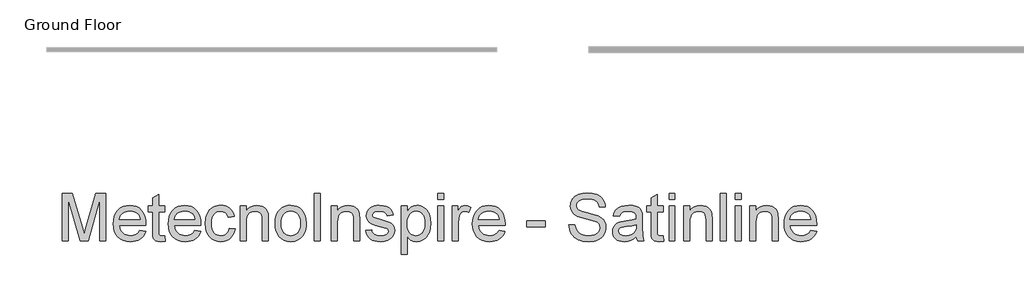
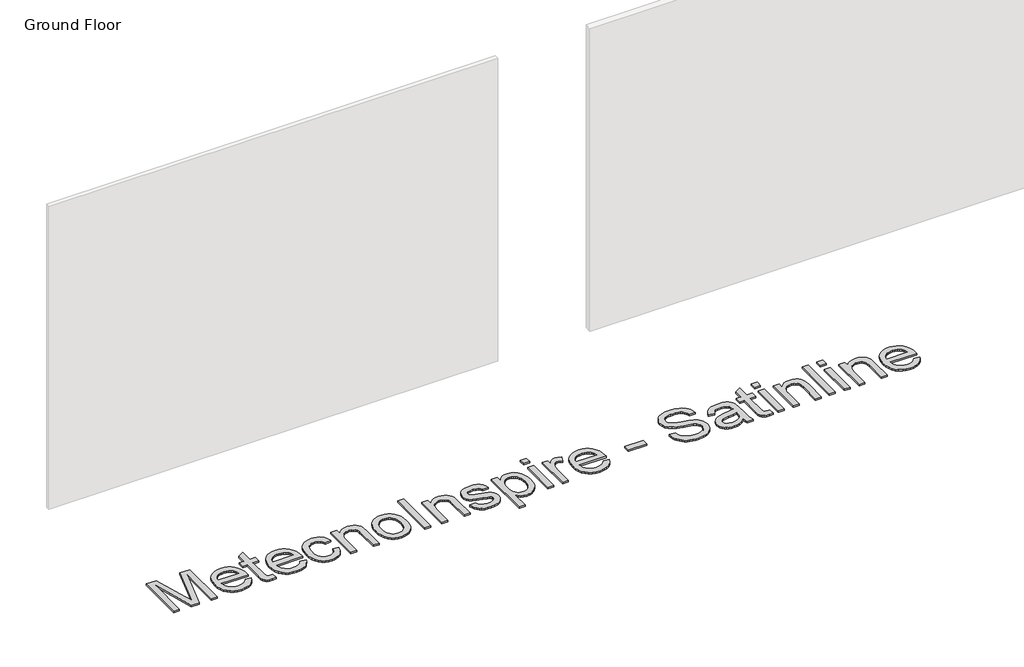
# One storey, part 5 of 5: 1 proxy.
"""IFC4 building model written with IfcOpenShell, lengths in millimetres."""

from ifc_helpers import new_model, si_unit, origin, origin_with_axes, place, context, project, spatial, polyline, outline, extrude, element, save

model = new_model("IFC4")

# Units and contexts
model_context = context("Model", 3, world=origin())
ifc_project = project(units=[si_unit("LENGTHUNIT", "METRE", prefix="MILLI")], contexts=[model_context])

# Site, building, storey
site = spatial("IfcSite", under=ifc_project)
building = spatial("IfcBuilding", under=site)
storey = spatial("IfcBuildingStorey", under=building, Name="Ground Floor", Elevation=0.0)

# Proxy
placement = place(None, origin())
element("IfcBuildingElementProxy", 1, Name="600mm Arial", ObjectType="600mm Arial", at=placement, inside=storey, context=model_context, shape_type="SweptSolid", body=[
    extrude(outline(polyline([(70028.938782, -1483.8412169), (70028.938782, -893.0719861), (70156.0060897, -893.0719861), (70276.8714743, -1309.4662169), (70301.2464743, -1396.4373708), (70327.640705, -1302.2546784), (70446.4868589, -893.0719861), (70573.5541666, -893.0719861), (70573.5541666, -1483.8412169), (70499.7080127, -1483.8412169), (70499.7080127, -966.91814), (70351.2945512, -1483.8412169), (70251.1983974, -1483.8412169), (70102.7849358, -966.91814), (70102.7849358, -1483.8412169), (70028.938782, -1483.8412169)])), origin_with_axes(), (0.0, 0.0, 1.0), 20.0),
    extrude(outline(polyline([(70997.3041666, -1354.6104477), (71069.7080127, -1363.8412169), (71058.6067507, -1392.8406159), (71043.6202724, -1418.3965054), (71024.7485776, -1440.5088852), (71001.9916666, -1459.1777554), (70975.5839142, -1474.0064813), (70945.7596954, -1484.5984284), (70912.5190103, -1490.9535967), (70875.8618589, -1493.0719861), (70830.0415464, -1489.4166376), (70789.2152243, -1478.4505919), (70753.3828925, -1460.1738491), (70722.5445512, -1434.5864092), (70697.7458733, -1402.4004116), (70680.032532, -1364.3279958), (70669.4045272, -1320.3691616), (70665.8618589, -1270.5239092), (70669.4405849, -1218.9884525), (70680.1767627, -1173.5647746), (70698.0703925, -1134.2528756), (70723.1214743, -1101.0527554), (70753.8786858, -1074.6765534), (70788.890705, -1055.8364092), (70828.157532, -1044.5323227), (70871.6791666, -1040.7642938), (70913.7990584, -1044.5233083), (70951.8895031, -1055.8003515), (70985.9505007, -1074.5954236), (71015.9820512, -1100.9085246), (71040.4967748, -1134.0365294), (71058.0072916, -1173.2763131), (71068.5136017, -1218.6278756), (71072.015705, -1270.0912169), (71071.5830127, -1289.9950631), (70739.7080127, -1289.9950631), (70743.9853565, -1319.4632121), (70752.4904647, -1345.2715054), (70765.2233373, -1367.4199429), (70782.1839743, -1385.9085246), (70802.4348757, -1400.4848467), (70825.0385416, -1410.8965054), (70849.9949719, -1417.1435006), (70877.3041666, -1419.2258323), (70916.6070512, -1415.3676592), (70949.7080127, -1403.79314), (70976.6070512, -1383.7811208), (70997.3041666, -1354.6104477)]), holes=[polyline([(70739.7080127, -1216.1489092), (70998.1695512, -1216.1489092), (70988.1815704, -1177.1344861), (70979.5908252, -1161.7919381), (70968.6022435, -1149.2258323), (70948.4640224, -1134.0816015), (70925.5493589, -1123.2642938), (70899.8582531, -1116.7739092), (70871.390705, -1114.6104477), (70845.4246594, -1116.3367097), (70821.6130608, -1121.5154958), (70799.9559094, -1130.1468058), (70780.453205, -1142.23064), (70764.08752, -1157.2081039), (70751.8414262, -1174.5203034), (70743.7149238, -1194.1672385), (70739.7080127, -1216.1489092)])]), origin_with_axes(), (0.0, 0.0, 1.0), 20.0),
    extrude(outline(polyline([(71302.7849358, -1422.2546784), (71312.015705, -1486.0046784), (71256.7753204, -1493.0719861), (71221.3306089, -1490.0070823), (71194.9003204, -1480.8123708), (71176.2224358, -1466.6416977), (71164.0349358, -1448.6489092), (71157.328205, -1417.7474669), (71155.0926281, -1364.8508323), (71155.0926281, -1123.8412169), (71099.7080127, -1123.8412169), (71099.7080127, -1049.9950631), (71155.0926281, -1049.9950631), (71155.0926281, -944.5623708), (71228.938782, -901.1489092), (71228.938782, -1049.9950631), (71302.7849358, -1049.9950631), (71302.7849358, -1123.8412169), (71228.938782, -1123.8412169), (71228.938782, -1362.6873708), (71232.8330127, -1400.7642938), (71245.453205, -1414.2498708), (71256.1082531, -1417.9818419), (71270.6214743, -1419.2258323), (71302.7849358, -1422.2546784)])), origin_with_axes(), (0.0, 0.0, 1.0), 20.0),
    extrude(outline(polyline([(71680.3810897, -1354.6104477), (71752.7849358, -1363.8412169), (71741.6836738, -1392.8406159), (71726.6971954, -1418.3965054), (71707.8255007, -1440.5088852), (71685.0685897, -1459.1777554), (71658.6608373, -1474.0064813), (71628.8366185, -1484.5984284), (71595.5959334, -1490.9535967), (71558.938782, -1493.0719861), (71513.1184695, -1489.4166376), (71472.2921474, -1478.4505919), (71436.4598156, -1460.1738491), (71405.6214743, -1434.5864092), (71380.8227964, -1402.4004116), (71363.109455, -1364.3279958), (71352.4814502, -1320.3691616), (71348.938782, -1270.5239092), (71352.5175079, -1218.9884525), (71363.2536858, -1173.5647746), (71381.1473156, -1134.2528756), (71406.1983974, -1101.0527554), (71436.9556089, -1074.6765534), (71471.9676281, -1055.8364092), (71511.234455, -1044.5323227), (71554.7560897, -1040.7642938), (71596.8759815, -1044.5233083), (71634.9664262, -1055.8003515), (71669.0274238, -1074.5954236), (71699.0589743, -1100.9085246), (71723.5736978, -1134.0365294), (71741.0842147, -1173.2763131), (71751.5905248, -1218.6278756), (71755.0926281, -1270.0912169), (71754.6599358, -1289.9950631), (71422.7849358, -1289.9950631), (71427.0622796, -1319.4632121), (71435.5673877, -1345.2715054), (71448.3002603, -1367.4199429), (71465.2608974, -1385.9085246), (71485.5117988, -1400.4848467), (71508.1154647, -1410.8965054), (71533.071895, -1417.1435006), (71560.3810897, -1419.2258323), (71599.6839743, -1415.3676592), (71632.7849358, -1403.79314), (71659.6839743, -1383.7811208), (71680.3810897, -1354.6104477)]), holes=[polyline([(71422.7849358, -1216.1489092), (71681.2464743, -1216.1489092), (71671.2584935, -1177.1344861), (71662.6677483, -1161.7919381), (71651.6791666, -1149.2258323), (71631.5409454, -1134.0816015), (71608.626282, -1123.2642938), (71582.9351762, -1116.7739092), (71554.4676281, -1114.6104477), (71528.5015825, -1116.3367097), (71504.6899839, -1121.5154958), (71483.0328325, -1130.1468058), (71463.5301281, -1142.23064), (71447.164443, -1157.2081039), (71434.9183493, -1174.5203034), (71426.7918469, -1194.1672385), (71422.7849358, -1216.1489092)])]), origin_with_axes(), (0.0, 0.0, 1.0), 20.0),
    extrude(outline(polyline([(72105.8618589, -1326.91814), (72179.7080127, -1336.1489092), (72171.6761618, -1370.9941616), (72159.1190704, -1401.8279958), (72142.0367387, -1428.6504116), (72120.4291666, -1451.4614092), (72095.2068108, -1469.6660366), (72067.2801281, -1482.6693419), (72036.6491185, -1490.4713251), (72003.313782, -1493.0719861), (71961.8970151, -1489.4436808), (71924.7620993, -1478.558765), (71891.9090344, -1460.4172385), (71863.3378204, -1435.0191015), (71840.211318, -1402.8421183), (71823.6923877, -1364.3640534), (71813.7810296, -1319.5849068), (71810.4772435, -1268.5046784), (71816.1202724, -1202.7895342), (71823.1740584, -1173.2177193), (71833.0493589, -1145.8364092), (71845.813782, -1121.1954837), (71861.5349358, -1099.8448227), (71880.2128204, -1081.784426), (71901.8474358, -1067.0142938), (71925.4607171, -1055.5299188), (71950.0745993, -1047.3267938), (71975.6890825, -1042.4049188), (72002.3041666, -1040.7642938), (72035.0670873, -1043.0178996), (72064.7020031, -1049.7787169), (72091.2089142, -1061.0467458), (72114.5878204, -1076.8219861), (72134.4420873, -1096.7438611), (72150.37508, -1120.4517938), (72162.3867988, -1147.9457842), (72170.4772435, -1179.2258323), (72096.6310897, -1188.4566015), (72083.235657, -1156.2390534), (72062.376282, -1133.1441015), (72035.2068108, -1119.2438611), (72002.8810897, -1114.6104477), (71977.789443, -1116.8910967), (71955.1587339, -1123.7330438), (71934.9889623, -1135.136289), (71917.2801281, -1151.1008323), (71902.8615584, -1171.996265), (71892.56258, -1198.1921784), (71886.383193, -1229.6885727), (71884.3233974, -1266.4854477), (71886.3381209, -1303.8367097), (71892.3822916, -1335.6981881), (71902.4559094, -1362.0698828), (71916.5589743, -1382.9517938), (71933.9162459, -1398.8216857), (71953.7524839, -1410.1573227), (71976.0676882, -1416.9587049), (72000.8618589, -1419.2258323), (72039.1010416, -1413.5647746), (72055.6380007, -1406.4884525), (72070.453205, -1396.5816015), (72083.1319911, -1383.7360486), (72093.2596954, -1367.8436208), (72100.836318, -1348.9043179), (72105.8618589, -1326.91814)])), origin_with_axes(), (0.0, 0.0, 1.0), 20.0),
    extrude(outline(polyline([(72244.3233974, -1483.8412169), (72244.3233974, -1049.9950631), (72318.1695512, -1049.9950631), (72318.1695512, -1110.5719861), (72343.8245993, -1080.0311208), (72374.6358974, -1058.2162169), (72410.6034454, -1045.1272746), (72451.7272435, -1040.7642938), (72488.1274839, -1044.2799188), (72521.4628204, -1054.8267938), (72549.2633012, -1071.0888131), (72569.0589743, -1091.7498708), (72582.4904647, -1116.7558804), (72591.1983974, -1146.0527554), (72595.0926281, -1217.4469861), (72595.0926281, -1483.8412169), (72521.2464743, -1483.8412169), (72521.2464743, -1227.3989092), (72519.1190704, -1189.2138131), (72512.7368589, -1162.0623708), (72500.9640224, -1142.6092458), (72482.6647435, -1127.5191015), (72459.2092147, -1117.8376111), (72431.9676281, -1114.6104477), (72409.5442507, -1116.4223467), (72388.7164262, -1121.8580438), (72369.4841546, -1130.917539), (72351.8474358, -1143.6008323), (72337.1133613, -1161.3502313), (72326.5890224, -1185.6080438), (72320.274419, -1216.3742698), (72318.1695512, -1253.6489092), (72318.1695512, -1483.8412169), (72244.3233974, -1483.8412169)])), origin_with_axes(), (0.0, 0.0, 1.0), 20.0),
    extrude(outline(polyline([(72678.1695512, -1266.91814), (72682.1629406, -1210.7312409), (72694.1431089, -1162.3147746), (72714.110056, -1121.6687409), (72742.063782, -1088.79314), (72770.2068108, -1067.7805198), (72801.2705127, -1052.7715054), (72835.2548877, -1043.7660967), (72872.1599358, -1040.7642938), (72912.9006209, -1044.4196424), (72949.7380608, -1055.3856881), (72982.6722555, -1073.6624308), (73011.703205, -1099.2498708), (73035.3976161, -1131.2826232), (73052.3221954, -1168.8953034), (73062.476943, -1212.0879116), (73065.8618589, -1260.8604477), (73064.3654647, -1300.3886929), (73059.876282, -1335.4638131), (73052.3943108, -1366.0858083), (73041.9195512, -1392.2546784), (73028.5827123, -1414.8583443), (73012.5145031, -1434.7847265), (72993.7149238, -1452.0338251), (72972.1839743, -1466.60564), (72948.7599959, -1478.1846664), (72924.28133, -1486.4553996), (72898.7479767, -1491.4178395), (72872.1599358, -1493.0719861), (72830.8242988, -1489.4301592), (72793.6443108, -1478.5046784), (72760.6199719, -1460.2955438), (72731.751282, -1434.8027554), (72708.3092748, -1402.4590054), (72691.5649839, -1363.6969861), (72681.5184094, -1318.5166977), (72678.1695512, -1266.91814)]), holes=[polyline([(72752.015705, -1266.7739092), (72754.1521233, -1302.5927193), (72760.5613781, -1333.6068419), (72771.2434695, -1359.816277), (72786.1983974, -1381.2210246), (72804.3895031, -1397.848128), (72824.7801281, -1409.7246304), (72847.3702724, -1416.8505318), (72872.1599358, -1419.2258323), (72896.8233974, -1416.8370102), (72919.3233974, -1409.6705438), (72939.6599358, -1397.7264333), (72957.8330127, -1381.0046784), (72972.7879406, -1359.3880919), (72983.470032, -1332.7594861), (72989.8792868, -1301.1188611), (72992.015705, -1264.4662169), (72989.8657651, -1229.7832241), (72983.4159454, -1199.5803996), (72972.6662459, -1173.8577433), (72957.6166666, -1152.6152554), (72939.3759815, -1135.988152), (72919.0529647, -1124.1116496), (72896.6476161, -1116.9857482), (72872.1599358, -1114.6104477), (72847.3702724, -1116.9767337), (72824.7801281, -1124.0755919), (72804.3895031, -1135.9070222), (72786.1983974, -1152.4710246), (72771.2434695, -1173.8126712), (72760.5613781, -1199.9770342), (72754.1521233, -1230.9641135), (72752.015705, -1266.7739092)])]), origin_with_axes(), (0.0, 0.0, 1.0), 20.0),
    extrude(outline(polyline([(73167.4003204, -1483.8412169), (73167.4003204, -893.0719861), (73241.2464743, -893.0719861), (73241.2464743, -1483.8412169), (73167.4003204, -1483.8412169)])), origin_with_axes(), (0.0, 0.0, 1.0), 20.0),
    extrude(outline(polyline([(73379.7080127, -1483.8412169), (73379.7080127, -1049.9950631), (73453.5541666, -1049.9950631), (73453.5541666, -1110.5719861), (73479.2092147, -1080.0311208), (73510.0205127, -1058.2162169), (73545.9880608, -1045.1272746), (73587.1118589, -1040.7642938), (73623.5120993, -1044.2799188), (73656.8474358, -1054.8267938), (73684.6479166, -1071.0888131), (73704.4435897, -1091.7498708), (73717.87508, -1116.7558804), (73726.5830127, -1146.0527554), (73730.4772435, -1217.4469861), (73730.4772435, -1483.8412169), (73656.6310897, -1483.8412169), (73656.6310897, -1227.3989092), (73654.5036858, -1189.2138131), (73648.1214743, -1162.0623708), (73636.3486377, -1142.6092458), (73618.0493589, -1127.5191015), (73594.59383, -1117.8376111), (73567.3522435, -1114.6104477), (73544.9288661, -1116.4223467), (73524.1010416, -1121.8580438), (73504.86877, -1130.917539), (73487.2320512, -1143.6008323), (73472.4979767, -1161.3502313), (73461.9736377, -1185.6080438), (73455.6590344, -1216.3742698), (73453.5541666, -1253.6489092), (73453.5541666, -1483.8412169), (73379.7080127, -1483.8412169)])), origin_with_axes(), (0.0, 0.0, 1.0), 20.0),
    extrude(outline(polyline([(73804.3233974, -1354.6104477), (73878.1695512, -1345.3796784), (73882.6316906, -1362.2186208), (73889.8161858, -1376.9662169), (73899.7230368, -1389.6224669), (73912.3522435, -1400.1873708), (73927.7398637, -1408.5166977), (73945.921955, -1414.4662169), (73990.6695512, -1419.2258323), (74034.876282, -1414.8628515), (74052.0577724, -1409.4091256), (74065.9580127, -1401.7739092), (74084.3474358, -1382.8075631), (74090.4772435, -1360.8123708), (74088.9357772, -1350.8424188), (74084.3113781, -1341.9902554), (74065.813782, -1327.6392938), (74038.157532, -1318.2642938), (73989.8041666, -1306.5816015), (73922.4123397, -1287.0924188), (73878.6022435, -1270.4517938), (73850.4592147, -1252.2967458), (73830.0685897, -1228.2642938), (73817.6827724, -1199.88689), (73813.5541666, -1168.6969861), (73816.8714743, -1140.0852073), (73826.8233974, -1113.6729477), (73842.5084935, -1090.5058804), (73863.0253204, -1071.6296784), (73883.4159454, -1059.7486688), (73909.9724358, -1049.7787169), (73940.6755608, -1043.0178996), (73973.5060897, -1040.7642938), (74021.5709935, -1044.3880919), (74063.3618589, -1055.2594861), (74096.9676281, -1072.3147746), (74120.4772435, -1094.4902554), (74136.0541666, -1123.4265534), (74145.8618589, -1160.7642938), (74072.015705, -1169.9950631), (74062.6947916, -1146.7558804), (74044.251282, -1129.2498708), (74016.5048877, -1118.2703034), (73979.2753204, -1114.6104477), (73936.8714743, -1118.1080438), (73908.6022435, -1128.6008323), (73892.7008012, -1143.7450631), (73887.4003204, -1161.1969861), (73889.5998397, -1172.5551592), (73896.1983974, -1182.6873708), (73907.484455, -1191.7378515), (73923.7464743, -1198.9854477), (73987.3522435, -1214.7066015), (74095.7416666, -1249.4662169), (74124.3714743, -1266.0888131), (74146.078205, -1288.8412169), (74159.7620993, -1317.7955438), (74164.3233974, -1353.0239092), (74158.96883, -1389.4421784), (74142.9051281, -1423.6969861), (74116.7452724, -1453.1020342), (74081.1022435, -1474.9710246), (74038.0493589, -1488.5467458), (73989.6599358, -1493.0719861), (73949.9153445, -1490.8904958), (73915.2008012, -1484.3460246), (73885.516306, -1473.4385727), (73860.8618589, -1458.16814), (73840.7236377, -1438.6068419), (73824.5878204, -1414.8267938), (73812.454407, -1386.8279958), (73804.3233974, -1354.6104477)])), origin_with_axes(), (0.0, 0.0, 1.0), 20.0),
    extrude(outline(polyline([(74247.4003204, -1649.9950631), (74247.4003204, -1049.9950631), (74321.2464743, -1049.9950631), (74321.2464743, -1122.3989092), (74345.3330127, -1086.683765), (74372.3041666, -1061.1729477), (74403.7464743, -1045.8664573), (74441.2464743, -1040.7642938), (74467.000681, -1042.5491496), (74491.1863781, -1047.9037169), (74513.8035656, -1056.8279958), (74534.8522435, -1069.3219861), (74553.8726762, -1085.0611688), (74570.4051281, -1103.7210246), (74584.4495993, -1125.3015534), (74596.0060897, -1149.8027554), (74611.4748397, -1204.2138131), (74616.6310897, -1263.6008323), (74610.8077724, -1326.7558804), (74603.5286257, -1355.831902), (74593.3378204, -1383.2402554), (74580.37508, -1408.2642938), (74564.7801281, -1430.1873708), (74546.5529647, -1449.0094861), (74525.6935897, -1464.73064), (74503.2251401, -1477.1299789), (74480.1707531, -1485.9866496), (74456.5304286, -1491.300652), (74432.3041666, -1493.0719861), (74398.3558493, -1488.3303996), (74368.0493589, -1474.10564), (74342.1058493, -1452.6332842), (74321.2464743, -1426.1489092), (74321.2464743, -1649.9950631), (74247.4003204, -1649.9950631)]), holes=[polyline([(74321.2464743, -1270.3796784), (74323.243169, -1305.9686208), (74329.2332531, -1336.5816015), (74339.2167267, -1362.2186208), (74353.1935897, -1382.8796784), (74370.0190103, -1398.7811208), (74388.548157, -1410.1392938), (74408.7810296, -1416.9541977), (74430.7176281, -1419.2258323), (74452.9697315, -1416.8730679), (74473.5721954, -1409.8147746), (74492.52502, -1398.0509525), (74509.828205, -1381.5816015), (74524.2467748, -1360.1723467), (74534.5457531, -1333.5888131), (74540.7251401, -1301.8310006), (74542.7849358, -1264.8989092), (74540.7747195, -1229.6164573), (74534.7440704, -1199.0575631), (74524.6929887, -1173.2222265), (74510.6214743, -1152.1104477), (74493.7554887, -1135.7041977), (74475.3209935, -1123.9854477), (74455.3179887, -1116.9541977), (74433.7464743, -1114.6104477), (74412.242568, -1117.1029357), (74392.0096954, -1124.5803996), (74373.0478565, -1137.0428395), (74355.3570512, -1154.4902554), (74340.4336738, -1176.6882722), (74329.7741185, -1203.402515), (74323.3783853, -1234.6329837), (74321.2464743, -1270.3796784)])]), origin_with_axes(), (0.0, 0.0, 1.0), 20.0),
    extrude(outline(polyline([(74699.7080127, -1483.8412169), (74699.7080127, -1049.9950631), (74773.5541666, -1049.9950631), (74773.5541666, -1483.8412169), (74699.7080127, -1483.8412169)])), origin_with_axes(), (0.0, 0.0, 1.0), 20.0),
    extrude(outline(polyline([(74699.7080127, -966.91814), (74699.7080127, -893.0719861), (74773.5541666, -893.0719861), (74773.5541666, -966.91814), (74699.7080127, -966.91814)])), origin_with_axes(), (0.0, 0.0, 1.0), 20.0),
    extrude(outline(polyline([(74884.3233974, -1483.8412169), (74884.3233974, -1049.9950631), (74948.938782, -1049.9950631), (74948.938782, -1114.1777554), (74972.8089743, -1076.9662169), (74994.8041666, -1055.04314), (75016.8714743, -1044.3340054), (75040.9580127, -1040.7642938), (75077.7368589, -1046.4614092), (75115.0926281, -1063.5527554), (75090.4291666, -1129.7546784), (75064.4676281, -1118.3965054), (75038.5060897, -1114.6104477), (75016.4568108, -1118.2522746), (74996.751282, -1129.1777554), (74980.8318108, -1146.5575631), (74970.140705, -1169.5623708), (74961.1623397, -1210.8123708), (74958.1695512, -1255.8123708), (74958.1695512, -1483.8412169), (74884.3233974, -1483.8412169)])), origin_with_axes(), (0.0, 0.0, 1.0), 20.0),
    extrude(outline(polyline([(75464.9964743, -1354.6104477), (75537.4003204, -1363.8412169), (75526.2990584, -1392.8406159), (75511.31258, -1418.3965054), (75492.4408853, -1440.5088852), (75469.6839743, -1459.1777554), (75443.2762219, -1474.0064813), (75413.4520031, -1484.5984284), (75380.211318, -1490.9535967), (75343.5541666, -1493.0719861), (75297.7338541, -1489.4166376), (75256.907532, -1478.4505919), (75221.0752002, -1460.1738491), (75190.2368589, -1434.5864092), (75165.438181, -1402.4004116), (75147.7248397, -1364.3279958), (75137.0968349, -1320.3691616), (75133.5541666, -1270.5239092), (75137.1328925, -1218.9884525), (75147.8690704, -1173.5647746), (75165.7627002, -1134.2528756), (75190.813782, -1101.0527554), (75221.5709935, -1074.6765534), (75256.5830127, -1055.8364092), (75295.8498397, -1044.5323227), (75339.3714743, -1040.7642938), (75381.4913661, -1044.5233083), (75419.5818108, -1055.8003515), (75453.6428084, -1074.5954236), (75483.6743589, -1100.9085246), (75508.1890825, -1134.0365294), (75525.6995993, -1173.2763131), (75536.2059094, -1218.6278756), (75539.7080127, -1270.0912169), (75539.2753204, -1289.9950631), (75207.4003204, -1289.9950631), (75211.6776642, -1319.4632121), (75220.1827724, -1345.2715054), (75232.915645, -1367.4199429), (75249.876282, -1385.9085246), (75270.1271834, -1400.4848467), (75292.7308493, -1410.8965054), (75317.6872796, -1417.1435006), (75344.9964743, -1419.2258323), (75384.2993589, -1415.3676592), (75417.4003204, -1403.79314), (75444.2993589, -1383.7811208), (75464.9964743, -1354.6104477)]), holes=[polyline([(75207.4003204, -1216.1489092), (75465.8618589, -1216.1489092), (75455.8738781, -1177.1344861), (75447.2831329, -1161.7919381), (75436.2945512, -1149.2258323), (75416.15633, -1134.0816015), (75393.2416666, -1123.2642938), (75367.5505608, -1116.7739092), (75339.0830127, -1114.6104477), (75313.1169671, -1116.3367097), (75289.3053685, -1121.5154958), (75267.6482171, -1130.1468058), (75248.1455127, -1142.23064), (75231.7798276, -1157.2081039), (75219.5337339, -1174.5203034), (75211.4072315, -1194.1672385), (75207.4003204, -1216.1489092)])]), origin_with_axes(), (0.0, 0.0, 1.0), 20.0),
    extrude(outline(polyline([(75807.4003204, -1308.4566015), (75807.4003204, -1234.6104477), (76038.1695512, -1234.6104477), (76038.1695512, -1308.4566015), (75807.4003204, -1308.4566015)])), origin_with_axes(), (0.0, 0.0, 1.0), 20.0),
    extrude(outline(polyline([(76333.5541666, -1280.7642938), (76407.4003204, -1280.7642938), (76415.8738781, -1321.7438611), (76431.1983974, -1354.6825631), (76455.1046474, -1380.82439), (76489.3233974, -1401.4133323), (76531.1503204, -1414.7727073), (76577.8810897, -1419.2258323), (76619.0229166, -1415.8544381), (76655.0445512, -1405.7402554), (76684.2332531, -1389.73064), (76704.876282, -1368.6729477), (76717.1539262, -1344.496265), (76721.2464743, -1319.1296784), (76718.1815704, -1294.4121304), (76708.9868589, -1273.0479477), (76690.3089743, -1254.8207842), (76658.7945512, -1239.5142938), (76551.2705127, -1211.3171784), (76480.68758, -1192.6573227), (76435.5253204, -1174.8989092), (76398.7645031, -1150.0551592), (76372.7128204, -1119.9469861), (76357.1899839, -1085.2234284), (76352.015705, -1046.5335246), (76353.6157651, -1024.5428395), (76358.4159454, -1003.2823227), (76366.4162459, -982.7519741), (76377.6166666, -962.9517938), (76391.8910055, -944.6885727), (76409.1130608, -928.7691015), (76429.2828325, -915.1933804), (76452.4003204, -903.9614092), (76504.359455, -888.871265), (76561.8714743, -883.8412169), (76624.1791666, -889.10564), (76678.6983974, -904.8989092), (76702.5505608, -916.6627313), (76723.4820512, -930.8965054), (76741.4928685, -947.6002313), (76756.5830127, -966.7739092), (76768.6352964, -987.8586448), (76777.532532, -1010.2955438), (76783.2747195, -1034.0846063), (76785.8618589, -1059.2258323), (76712.015705, -1059.2258323), (76707.0758012, -1035.6621304), (76698.4580127, -1015.1633323), (76686.1623397, -997.7294381), (76670.188782, -983.3604477), (76650.2398637, -972.1284765), (76626.0181089, -964.10564), (76597.5235175, -959.2919381), (76564.7560897, -957.6873708), (76530.9429887, -959.2739092), (76502.0517627, -964.0335246), (76478.0824118, -971.9662169), (76459.0349358, -983.0719861), (76444.5217147, -996.4223467), (76434.1551281, -1011.0888131), (76427.9351762, -1027.0713852), (76425.8618589, -1044.3700631), (76431.7392627, -1072.7474669), (76449.3714743, -1095.5719861), (76465.5613781, -1105.7222265), (76491.0541666, -1115.98064), (76569.9483974, -1136.8219861), (76651.3666666, -1156.6176592), (76700.6214743, -1173.8892938), (76742.71883, -1200.6801592), (76758.9943709, -1216.4283563), (76772.0878204, -1233.7450631), (76782.1524238, -1252.5401352), (76789.3414262, -1272.7234284), (76795.0926281, -1317.2546784), (76793.4384815, -1340.3541376), (76788.4760416, -1362.777515), (76780.2053084, -1384.5248107), (76768.626282, -1405.5960246), (76753.9417868, -1425.1753515), (76736.3546474, -1442.4469861), (76715.8648637, -1457.4109284), (76692.4724358, -1470.0671784), (76666.8579526, -1480.1317818), (76639.7020031, -1487.3207842), (76580.765705, -1493.0719861), (76542.9907651, -1491.5215054), (76508.4159454, -1486.8700631), (76477.0412459, -1479.1176592), (76448.8666666, -1468.2642938), (76423.7209334, -1454.2919381), (76401.4327724, -1437.1825631), (76382.0021834, -1416.9361688), (76365.4291666, -1393.5527554), (76352.078806, -1367.7895342), (76342.3161858, -1340.4037169), (76336.141306, -1311.3953034), (76333.5541666, -1280.7642938)])), origin_with_axes(), (0.0, 0.0, 1.0), 20.0),
    extrude(outline(polyline([(77173.5541666, -1428.4566015), (77138.2717147, -1458.7090054), (77101.9435897, -1478.5046784), (77063.7404647, -1489.4301592), (77022.8330127, -1493.0719861), (76989.9529046, -1490.8814813), (76961.1202724, -1484.3099669), (76936.3351161, -1473.3574429), (76915.5974358, -1458.0239092), (76899.2227363, -1439.2829236), (76887.5265224, -1418.1080438), (76880.508794, -1394.4992698), (76878.1695512, -1368.4566015), (76881.703205, -1337.8436208), (76892.3041666, -1310.04314), (76908.65633, -1286.2450631), (76929.4435897, -1267.6392938), (76953.8726762, -1253.5767938), (76981.1503204, -1243.4085246), (77045.0445512, -1232.3027554), (77120.5493589, -1220.6200631), (77173.1214743, -1206.91814), (77173.5541666, -1190.4758323), (77168.470032, -1157.5191015), (77162.1148637, -1145.3135727), (77153.2176281, -1135.9566015), (77137.8390224, -1126.6176592), (77119.1070512, -1119.9469861), (77071.5830127, -1114.6104477), (77027.5926281, -1118.1621304), (76996.8714743, -1128.8171784), (76975.921955, -1148.5227073), (76961.2464743, -1179.2258323), (76887.4003204, -1169.9950631), (76900.21883, -1129.6104477), (76919.3474358, -1097.8796784), (76946.5709935, -1073.6128515), (76983.6743589, -1055.6200631), (77029.0529647, -1044.4782361), (77081.1022435, -1040.7642938), (77131.0241185, -1044.0455438), (77170.5974358, -1053.8892938), (77200.4351762, -1068.6909765), (77221.1503204, -1086.8460246), (77234.8883012, -1109.2919381), (77243.7945512, -1136.9662169), (77247.4003204, -1201.5816015), (77247.4003204, -1293.4566015), (77251.1503204, -1421.7498708), (77256.703205, -1453.4626111), (77265.8618589, -1483.8412169), (77192.015705, -1483.8412169), (77180.188782, -1458.16814), (77173.5541666, -1428.4566015)]), holes=[polyline([(77173.5541666, -1280.7642938), (77123.938782, -1293.0599669), (77054.4195512, -1303.4085246), (76990.8858974, -1315.3796784), (76974.3534454, -1323.5647746), (76962.1118589, -1334.8508323), (76954.5397435, -1348.3724669), (76952.015705, -1363.2642938), (76957.5145031, -1385.2234284), (76974.0108974, -1403.2162169), (77001.1443108, -1415.2234284), (77038.5541666, -1419.2258323), (77078.2176281, -1414.808765), (77113.265705, -1401.5575631), (77141.6791666, -1382.0323227), (77161.438782, -1358.79314), (77170.2008012, -1334.8508323), (77173.1214743, -1301.6777554), (77173.5541666, -1280.7642938)])]), origin_with_axes(), (0.0, 0.0, 1.0), 20.0),
    extrude(outline(polyline([(77505.8618589, -1422.2546784), (77515.0926281, -1486.0046784), (77459.8522435, -1493.0719861), (77424.407532, -1490.0070823), (77397.9772435, -1480.8123708), (77379.2993589, -1466.6416977), (77367.1118589, -1448.6489092), (77360.4051281, -1417.7474669), (77358.1695512, -1364.8508323), (77358.1695512, -1123.8412169), (77302.7849358, -1123.8412169), (77302.7849358, -1049.9950631), (77358.1695512, -1049.9950631), (77358.1695512, -944.5623708), (77432.015705, -901.1489092), (77432.015705, -1049.9950631), (77505.8618589, -1049.9950631), (77505.8618589, -1123.8412169), (77432.015705, -1123.8412169), (77432.015705, -1362.6873708), (77435.9099358, -1400.7642938), (77448.5301281, -1414.2498708), (77459.1851762, -1417.9818419), (77473.6983974, -1419.2258323), (77505.8618589, -1422.2546784)])), origin_with_axes(), (0.0, 0.0, 1.0), 20.0),
    extrude(outline(polyline([(77579.7080127, -966.91814), (77579.7080127, -893.0719861), (77653.5541666, -893.0719861), (77653.5541666, -966.91814), (77579.7080127, -966.91814)])), origin_with_axes(), (0.0, 0.0, 1.0), 20.0),
    extrude(outline(polyline([(77579.7080127, -1483.8412169), (77579.7080127, -1049.9950631), (77653.5541666, -1049.9950631), (77653.5541666, -1483.8412169), (77579.7080127, -1483.8412169)])), origin_with_axes(), (0.0, 0.0, 1.0), 20.0),
    extrude(outline(polyline([(77764.3233974, -1483.8412169), (77764.3233974, -1049.9950631), (77838.1695512, -1049.9950631), (77838.1695512, -1110.5719861), (77863.8245993, -1080.0311208), (77894.6358974, -1058.2162169), (77930.6034454, -1045.1272746), (77971.7272435, -1040.7642938), (78008.1274839, -1044.2799188), (78041.4628204, -1054.8267938), (78069.2633012, -1071.0888131), (78089.0589743, -1091.7498708), (78102.4904647, -1116.7558804), (78111.1983974, -1146.0527554), (78115.0926281, -1217.4469861), (78115.0926281, -1483.8412169), (78041.2464743, -1483.8412169), (78041.2464743, -1227.3989092), (78039.1190704, -1189.2138131), (78032.7368589, -1162.0623708), (78020.9640224, -1142.6092458), (78002.6647435, -1127.5191015), (77979.2092147, -1117.8376111), (77951.9676281, -1114.6104477), (77929.5442507, -1116.4223467), (77908.7164262, -1121.8580438), (77889.4841546, -1130.917539), (77871.8474358, -1143.6008323), (77857.1133613, -1161.3502313), (77846.5890224, -1185.6080438), (77840.274419, -1216.3742698), (77838.1695512, -1253.6489092), (77838.1695512, -1483.8412169), (77764.3233974, -1483.8412169)])), origin_with_axes(), (0.0, 0.0, 1.0), 20.0),
    extrude(outline(polyline([(78216.6310897, -1483.8412169), (78216.6310897, -893.0719861), (78290.4772435, -893.0719861), (78290.4772435, -1483.8412169), (78216.6310897, -1483.8412169)])), origin_with_axes(), (0.0, 0.0, 1.0), 20.0),
    extrude(outline(polyline([(78401.2464743, -966.91814), (78401.2464743, -893.0719861), (78475.0926281, -893.0719861), (78475.0926281, -966.91814), (78401.2464743, -966.91814)])), origin_with_axes(), (0.0, 0.0, 1.0), 20.0),
    extrude(outline(polyline([(78401.2464743, -1483.8412169), (78401.2464743, -1049.9950631), (78475.0926281, -1049.9950631), (78475.0926281, -1483.8412169), (78401.2464743, -1483.8412169)])), origin_with_axes(), (0.0, 0.0, 1.0), 20.0),
    extrude(outline(polyline([(78585.8618589, -1483.8412169), (78585.8618589, -1049.9950631), (78659.7080127, -1049.9950631), (78659.7080127, -1110.5719861), (78685.3630608, -1080.0311208), (78716.1743589, -1058.2162169), (78752.141907, -1045.1272746), (78793.265705, -1040.7642938), (78829.6659454, -1044.2799188), (78863.001282, -1054.8267938), (78890.8017627, -1071.0888131), (78910.5974358, -1091.7498708), (78924.0289262, -1116.7558804), (78932.7368589, -1146.0527554), (78936.6310897, -1217.4469861), (78936.6310897, -1483.8412169), (78862.7849358, -1483.8412169), (78862.7849358, -1227.3989092), (78860.657532, -1189.2138131), (78854.2753204, -1162.0623708), (78842.5024839, -1142.6092458), (78824.203205, -1127.5191015), (78800.7476762, -1117.8376111), (78773.5060897, -1114.6104477), (78751.0827123, -1116.4223467), (78730.2548877, -1121.8580438), (78711.0226161, -1130.917539), (78693.3858974, -1143.6008323), (78678.6518228, -1161.3502313), (78668.1274839, -1185.6080438), (78661.8128805, -1216.3742698), (78659.7080127, -1253.6489092), (78659.7080127, -1483.8412169), (78585.8618589, -1483.8412169)])), origin_with_axes(), (0.0, 0.0, 1.0), 20.0),
    extrude(outline(polyline([(79341.9195512, -1354.6104477), (79414.3233974, -1363.8412169), (79403.2221353, -1392.8406159), (79388.235657, -1418.3965054), (79369.3639623, -1440.5088852), (79346.6070512, -1459.1777554), (79320.1992988, -1474.0064813), (79290.37508, -1484.5984284), (79257.134395, -1490.9535967), (79220.4772435, -1493.0719861), (79174.656931, -1489.4166376), (79133.8306089, -1478.4505919), (79097.9982772, -1460.1738491), (79067.1599358, -1434.5864092), (79042.3612579, -1402.4004116), (79024.6479166, -1364.3279958), (79014.0199118, -1320.3691616), (79010.4772435, -1270.5239092), (79014.0559695, -1218.9884525), (79024.7921474, -1173.5647746), (79042.6857772, -1134.2528756), (79067.7368589, -1101.0527554), (79098.4940704, -1074.6765534), (79133.5060897, -1055.8364092), (79172.7729166, -1044.5323227), (79216.2945512, -1040.7642938), (79258.414443, -1044.5233083), (79296.5048877, -1055.8003515), (79330.5658853, -1074.5954236), (79360.5974358, -1100.9085246), (79385.1121594, -1134.0365294), (79402.6226762, -1173.2763131), (79413.1289863, -1218.6278756), (79416.6310897, -1270.0912169), (79416.1983974, -1289.9950631), (79084.3233974, -1289.9950631), (79088.6007411, -1319.4632121), (79097.1058493, -1345.2715054), (79109.8387219, -1367.4199429), (79126.7993589, -1385.9085246), (79147.0502603, -1400.4848467), (79169.6539262, -1410.8965054), (79194.6103565, -1417.1435006), (79221.9195512, -1419.2258323), (79261.2224358, -1415.3676592), (79294.3233974, -1403.79314), (79321.2224358, -1383.7811208), (79341.9195512, -1354.6104477)]), holes=[polyline([(79084.3233974, -1216.1489092), (79342.7849358, -1216.1489092), (79332.796955, -1177.1344861), (79324.2062099, -1161.7919381), (79313.2176281, -1149.2258323), (79293.079407, -1134.0816015), (79270.1647435, -1123.2642938), (79244.4736377, -1116.7739092), (79216.0060897, -1114.6104477), (79190.040044, -1116.3367097), (79166.2284454, -1121.5154958), (79144.571294, -1130.1468058), (79125.0685897, -1142.23064), (79108.7029046, -1157.2081039), (79096.4568108, -1174.5203034), (79088.3303084, -1194.1672385), (79084.3233974, -1216.1489092)])]), origin_with_axes(), (0.0, 0.0, 1.0), 20.0),
])

save(model, "model.ifc")
